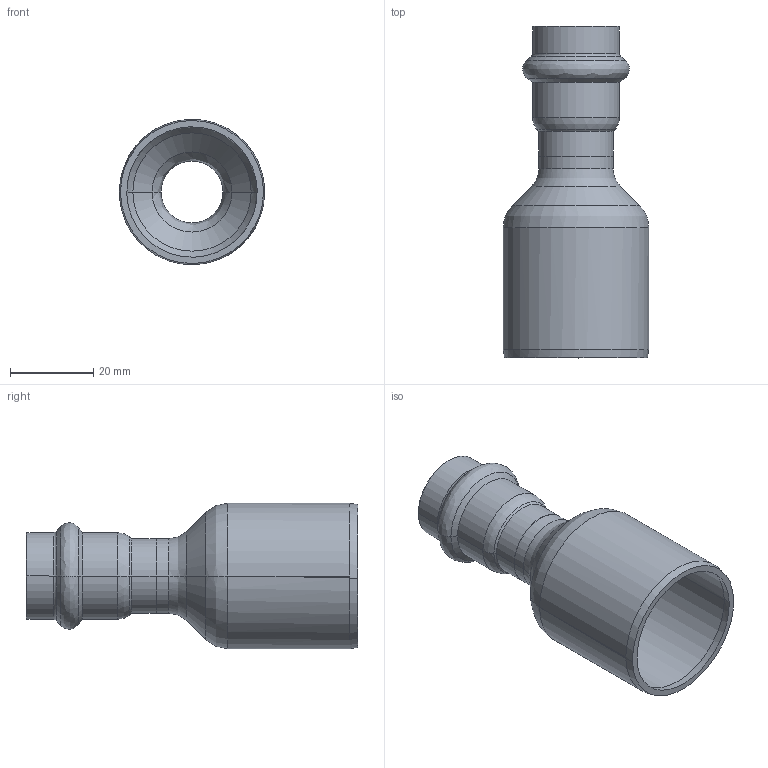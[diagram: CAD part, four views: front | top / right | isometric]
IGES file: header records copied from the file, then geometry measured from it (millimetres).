
Start section: Elysium IGES Interface
Global section: file name: C:\Users\Wallenburg\Desktop\3d modellen sudo\S-Pr VP\SP6243V\6243VW3518.igs; native system: CoCreate Modeling 17.00A  17-Jun-2010; preprocessor: CoCreate IGES_3D V2.2; author: Unknown; organization: Unknown; date: 20130124.092528; units: millimetre
Bounding box: 35 x 79.86 x 35 mm (x, y, z)
Volume: 10490.6 mm3; surface area: 13924.4 mm2
Topology: 1 solids, 1 shells, 73 faces, 150 edges, 82 vertices
Faces by surface type: bspline 73
